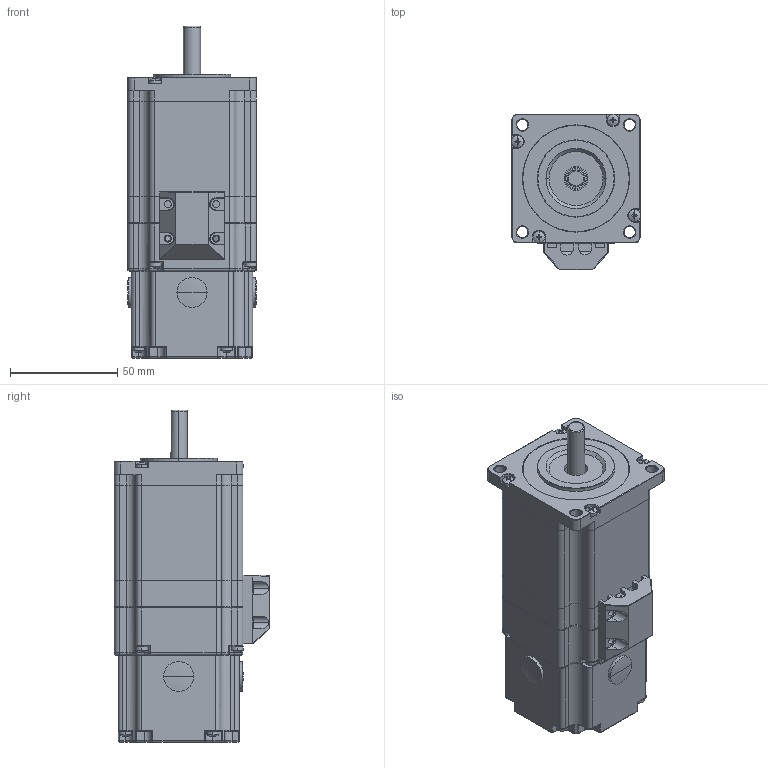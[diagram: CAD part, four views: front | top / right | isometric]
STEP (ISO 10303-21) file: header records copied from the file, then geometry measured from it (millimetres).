
FILE_DESCRIPTION (( 'STEP AP203' ), '1' );
FILE_NAME ('YK260EC65E1-SC.STEP', '2020-07-08T02:44:05', ( '' ), ( '' ), 'SwSTEP 2.0', 'SolidWorks 2016', '' );
FILE_SCHEMA (( 'CONFIG_CONTROL_DESIGN' ));
Length unit declared in the file: millimetre
Products named in the file (12): YK260萇儂晤鎢ん欶; YK260EC 綴裔; YK260EC 隅赽; YK260EC 粣; 57BK; cross recessed pan head screws gb_GB_CROSS_SCREWS_TYPE1 M3X25-25  H type-C; 57BK-綴欶; YK260EC 坋趼羞攫芛蹟隊; 57BK-橡胶塞; YK260EC65E1-SC; 260萇儂萇擢揤啣; YK260EC ヶ裔
Assembly tree (23 placements, depth 3):
  YK260EC65E1-SC
    YK260EC ヶ裔
    YK260EC 綴裔
    YK260EC 隅赽
    YK260EC 粣
    YK260EC 坋趼羞攫芛蹟隊  x4
    YK260萇儂晤鎢ん欶
    260萇儂萇擢揤啣
    57BK
      57BK-綴欶
      57BK-橡胶塞  x3
    cross recessed pan head screws gb_GB_CROSS_SCREWS_TYPE1 M3X25-25  H type-C  x8
Bounding box: 60.1 x 72.55 x 154.8 mm (x, y, z)
Volume: 198731.7 mm3; surface area: 101815.3 mm2
Topology: 22 solids, 22 shells, 3113 faces, 6830 edges, 3742 vertices
Faces by surface type: cone 1961, cylinder 481, plane 475, torus 109, sphere 44, bspline 43
Entity records: 42573 total; most frequent: CARTESIAN_POINT 8406, DIRECTION 7350, ORIENTED_EDGE 6536, EDGE_CURVE 3268, AXIS2_PLACEMENT_3D 2839, VERTEX_POINT 1887, VECTOR 1672, LINE 1672
